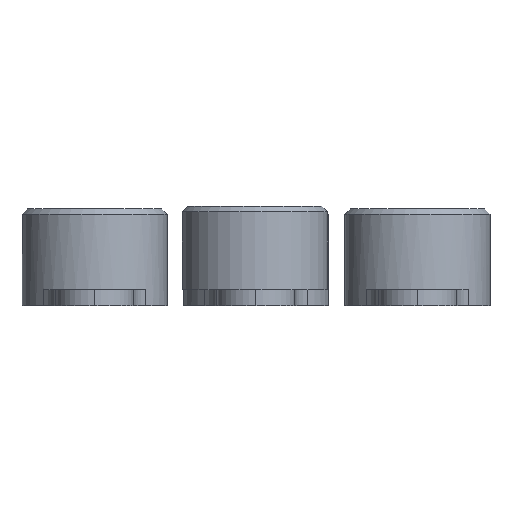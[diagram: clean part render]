
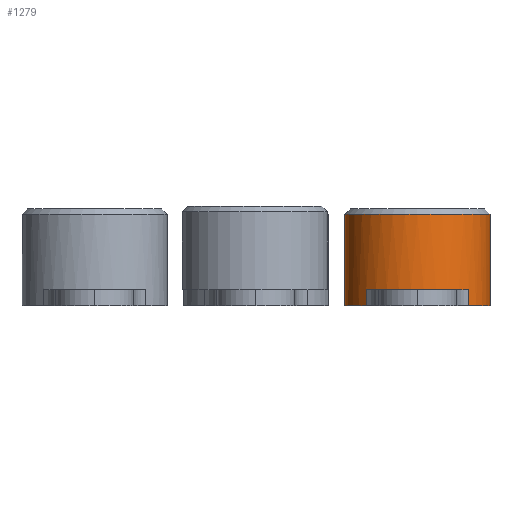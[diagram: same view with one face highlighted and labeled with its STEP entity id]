
A CAD part, left-side view. The second image highlights one B-rep face of the part: STEP entity #1279.
In plain terms, the highlighted cylindrical face has radius 2.7 mm (diameter 5.4 mm), a full revolution.
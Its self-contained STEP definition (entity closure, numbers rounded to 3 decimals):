
#95=FACE_OUTER_BOUND('',#170,.T.);
#170=EDGE_LOOP('',(#996,#997,#998,#999,#1000,#1001,#1002,#1003,#1004,#1005,
#1006,#1007));
#267=LINE('',#2107,#376);
#268=LINE('',#2109,#377);
#269=LINE('',#2111,#378);
#270=LINE('',#2115,#379);
#271=LINE('',#2119,#380);
#376=VECTOR('',#1690,10.);
#377=VECTOR('',#1693,10.);
#378=VECTOR('',#1694,10.);
#379=VECTOR('',#1697,2.7);
#380=VECTOR('',#1702,10.);
#462=CIRCLE('',#1391,2.7);
#467=CIRCLE('',#1396,2.7);
#471=CIRCLE('',#1403,2.7);
#475=CIRCLE('',#1412,2.7);
#476=CIRCLE('',#1413,2.7);
#477=CIRCLE('',#1414,2.7);
#561=VERTEX_POINT('',#2054);
#562=VERTEX_POINT('',#2056);
#569=VERTEX_POINT('',#2070);
#570=VERTEX_POINT('',#2072);
#574=VERTEX_POINT('',#2086);
#575=VERTEX_POINT('',#2088);
#580=VERTEX_POINT('',#2110);
#581=VERTEX_POINT('',#2112);
#582=VERTEX_POINT('',#2114);
#583=VERTEX_POINT('',#2117);
#707=EDGE_CURVE('',#562,#561,#462,.T.);
#715=EDGE_CURVE('',#570,#569,#467,.T.);
#723=EDGE_CURVE('',#575,#574,#471,.T.);
#733=EDGE_CURVE('',#575,#561,#267,.T.);
#734=EDGE_CURVE('',#570,#574,#268,.T.);
#735=EDGE_CURVE('',#580,#569,#269,.T.);
#736=EDGE_CURVE('',#580,#581,#475,.T.);
#737=EDGE_CURVE('',#581,#582,#270,.T.);
#738=EDGE_CURVE('',#582,#582,#476,.T.);
#739=EDGE_CURVE('',#581,#583,#477,.T.);
#740=EDGE_CURVE('',#562,#583,#271,.T.);
#996=ORIENTED_EDGE('',*,*,#733,.F.);
#997=ORIENTED_EDGE('',*,*,#723,.T.);
#998=ORIENTED_EDGE('',*,*,#734,.F.);
#999=ORIENTED_EDGE('',*,*,#715,.T.);
#1000=ORIENTED_EDGE('',*,*,#735,.F.);
#1001=ORIENTED_EDGE('',*,*,#736,.T.);
#1002=ORIENTED_EDGE('',*,*,#737,.T.);
#1003=ORIENTED_EDGE('',*,*,#738,.F.);
#1004=ORIENTED_EDGE('',*,*,#737,.F.);
#1005=ORIENTED_EDGE('',*,*,#739,.T.);
#1006=ORIENTED_EDGE('',*,*,#740,.F.);
#1007=ORIENTED_EDGE('',*,*,#707,.T.);
#1230=CYLINDRICAL_SURFACE('',#1411,2.7);
#1279=ADVANCED_FACE('',(#95),#1230,.T.);
#1391=AXIS2_PLACEMENT_3D('',#2057,#1637,#1638);
#1396=AXIS2_PLACEMENT_3D('',#2073,#1650,#1651);
#1403=AXIS2_PLACEMENT_3D('',#2089,#1668,#1669);
#1411=AXIS2_PLACEMENT_3D('',#2108,#1691,#1692);
#1412=AXIS2_PLACEMENT_3D('',#2113,#1695,#1696);
#1413=AXIS2_PLACEMENT_3D('',#2116,#1698,#1699);
#1414=AXIS2_PLACEMENT_3D('',#2118,#1700,#1701);
#1637=DIRECTION('center_axis',(0.,0.,1.));
#1638=DIRECTION('ref_axis',(-1.,0.,0.));
#1650=DIRECTION('center_axis',(0.,0.,1.));
#1651=DIRECTION('ref_axis',(-1.,0.,0.));
#1668=DIRECTION('center_axis',(0.,0.,1.));
#1669=DIRECTION('ref_axis',(-1.,0.,0.));
#1690=DIRECTION('',(0.,0.,-1.));
#1691=DIRECTION('center_axis',(0.,0.,-1.));
#1692=DIRECTION('ref_axis',(-1.,0.,0.));
#1693=DIRECTION('',(0.,0.,1.));
#1694=DIRECTION('',(0.,0.,-1.));
#1695=DIRECTION('center_axis',(0.,0.,1.));
#1696=DIRECTION('ref_axis',(-1.,0.,0.));
#1697=DIRECTION('',(0.,0.,1.));
#1698=DIRECTION('center_axis',(0.,0.,1.));
#1699=DIRECTION('ref_axis',(-1.,0.,0.));
#1700=DIRECTION('center_axis',(0.,0.,1.));
#1701=DIRECTION('ref_axis',(-1.,0.,0.));
#1702=DIRECTION('',(0.,0.,1.));
#2054=CARTESIAN_POINT('',(59.329,-46.553,15.3));
#2056=CARTESIAN_POINT('',(63.173,-46.553,15.3));
#2057=CARTESIAN_POINT('Origin',(61.251,-48.45,15.3));
#2070=CARTESIAN_POINT('',(63.173,-50.346,15.3));
#2072=CARTESIAN_POINT('',(59.329,-50.346,15.3));
#2073=CARTESIAN_POINT('Origin',(61.251,-48.45,15.3));
#2086=CARTESIAN_POINT('',(59.329,-50.346,15.9));
#2088=CARTESIAN_POINT('',(59.329,-46.553,15.9));
#2089=CARTESIAN_POINT('Origin',(61.251,-48.45,15.9));
#2107=CARTESIAN_POINT('',(59.329,-46.553,17.2));
#2108=CARTESIAN_POINT('Origin',(61.251,-48.45,17.2));
#2109=CARTESIAN_POINT('',(59.329,-50.346,17.2));
#2110=CARTESIAN_POINT('',(63.173,-50.346,15.9));
#2111=CARTESIAN_POINT('',(63.173,-50.346,17.2));
#2112=CARTESIAN_POINT('',(63.951,-48.45,15.9));
#2113=CARTESIAN_POINT('Origin',(61.251,-48.45,15.9));
#2114=CARTESIAN_POINT('',(63.951,-48.45,18.7));
#2115=CARTESIAN_POINT('',(63.951,-48.45,17.2));
#2116=CARTESIAN_POINT('Origin',(61.251,-48.45,18.7));
#2117=CARTESIAN_POINT('',(63.173,-46.553,15.9));
#2118=CARTESIAN_POINT('Origin',(61.251,-48.45,15.9));
#2119=CARTESIAN_POINT('',(63.173,-46.553,17.2));
